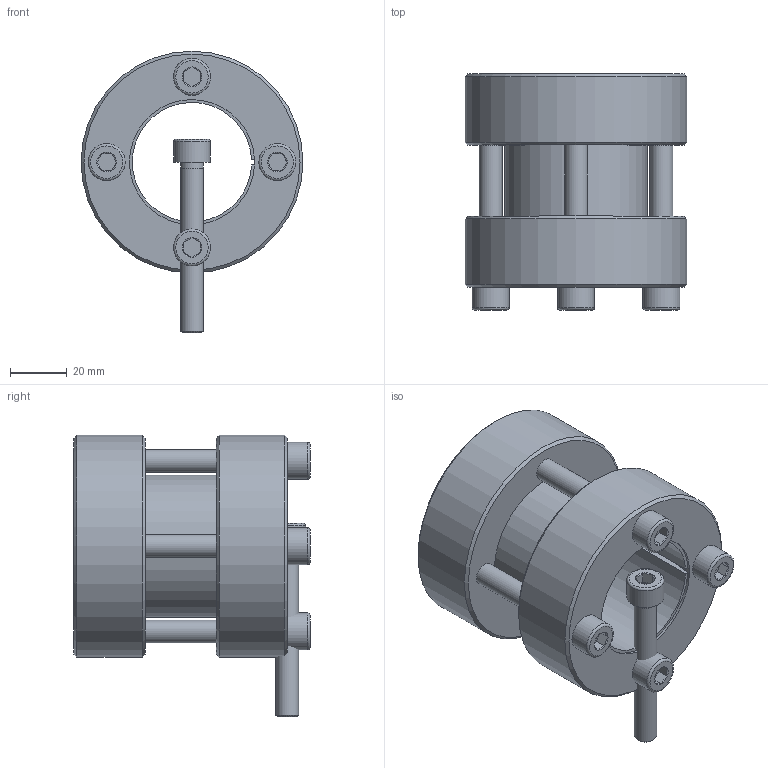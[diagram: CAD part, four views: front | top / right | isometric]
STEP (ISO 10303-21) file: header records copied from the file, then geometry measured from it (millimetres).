
FILE_DESCRIPTION( ( 'Unknown' ), '1' );
FILE_NAME( 'C:/Dokumente und Einstellungen/Sven/Desktop/homepage/cad - homepage/KBS95/KBS 95 - 42 x 75.stp', 'Unknown', ( 'Unknown' ), ( 'Unknown' ), 'XStep 1.0', 'Unknown', ' ' );
FILE_SCHEMA( ( 'automotive_design' ) );
Length unit declared in the file: millimetre
Products named in the file (3): Assem1; KBS 95 - 42 x 78; ISO EN DIN 4762 M8x60
Bounding box: 78 x 83 x 99 mm (x, y, z)
Volume: 365369.9 mm3; surface area: 95953.6 mm2
Topology: 7 solids, 7 shells, 181 faces, 379 edges, 232 vertices
Faces by surface type: plane 80, cone 47, cylinder 44, torus 10
Full cylindrical faces by diameter (mm): 7 x5, 8 x26, 13 x5, 78 x4
Entity records: 1726 total; most frequent: CARTESIAN_POINT 295, DIRECTION 252, ORIENTED_EDGE 190, AXIS2_PLACEMENT_3D 108, EDGE_LOOP 98, EDGE_CURVE 95, VERTEX_POINT 71, FACE_OUTER_BOUND 69
